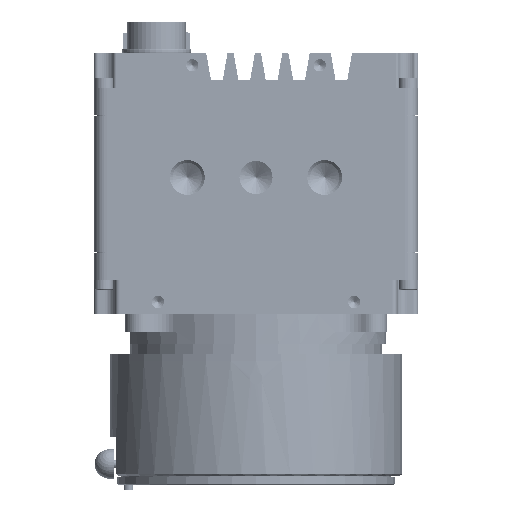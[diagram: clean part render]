
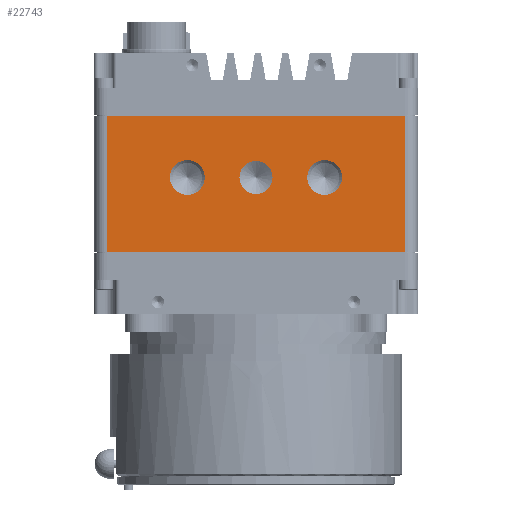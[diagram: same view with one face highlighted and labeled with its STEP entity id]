
A CAD part, front view. The second image highlights one B-rep face of the part: STEP entity #22743.
In plain terms, the highlighted planar face has unit normal (0, -1, 0).
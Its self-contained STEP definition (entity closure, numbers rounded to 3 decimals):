
#2048 = CARTESIAN_POINT ( 'NONE',  ( -20.091, -1.619, 6.427 ) ) ;
#9601 = FACE_BOUND ( 'NONE', #205629, .T. ) ;
#22743 = ADVANCED_FACE ( 'NONE', ( #354560, #9601, #389272, #665181 ), #464812, .F. ) ;
#23978 = EDGE_LOOP ( 'NONE', ( #506567, #706041 ) ) ;
#33009 = EDGE_CURVE ( 'NONE', #564601, #206211, #705892, .T. ) ;
#48267 = CARTESIAN_POINT ( 'NONE',  ( -50.571, -1.619, -12.064 ) ) ;
#53889 = DIRECTION ( 'NONE',  ( 0., 0., 1. ) ) ;
#59831 = VERTEX_POINT ( 'NONE', #147379 ) ;
#68454 = CIRCLE ( 'NONE', #432851, 3.55 ) ;
#77712 = VERTEX_POINT ( 'NONE', #326497 ) ;
#78898 = VERTEX_POINT ( 'NONE', #2048 ) ;
#78928 = DIRECTION ( 'NONE',  ( 0., -1., 0. ) ) ;
#80667 = EDGE_CURVE ( 'NONE', #77712, #672827, #395308, .T. ) ;
#83517 = CIRCLE ( 'NONE', #471086, 3.378 ) ;
#95263 = VERTEX_POINT ( 'NONE', #590287 ) ;
#100220 = ORIENTED_EDGE ( 'NONE', *, *, #80667, .T. ) ;
#100307 = CARTESIAN_POINT ( 'NONE',  ( -20.091, -1.619, 3.049 ) ) ;
#112717 = VERTEX_POINT ( 'NONE', #318296 ) ;
#126712 = ORIENTED_EDGE ( 'NONE', *, *, #133959, .F. ) ;
#131948 = DIRECTION ( 'NONE',  ( 0., 0., 1. ) ) ;
#133959 = EDGE_CURVE ( 'NONE', #59831, #95263, #68454, .T. ) ;
#137965 = LINE ( 'NONE', #314405, #456726 ) ;
#145008 = ORIENTED_EDGE ( 'NONE', *, *, #347358, .T. ) ;
#147379 = CARTESIAN_POINT ( 'NONE',  ( -34.091, -1.619, 6.599 ) ) ;
#149229 = AXIS2_PLACEMENT_3D ( 'NONE', #100307, #485872, #276173 ) ;
#152947 = ORIENTED_EDGE ( 'NONE', *, *, #378106, .F. ) ;
#159703 = EDGE_LOOP ( 'NONE', ( #126712, #152947 ) ) ;
#166983 = ORIENTED_EDGE ( 'NONE', *, *, #706982, .T. ) ;
#171636 = ORIENTED_EDGE ( 'NONE', *, *, #713608, .F. ) ;
#181613 = CARTESIAN_POINT ( 'NONE',  ( -34.091, -1.619, 3.049 ) ) ;
#183385 = AXIS2_PLACEMENT_3D ( 'NONE', #243222, #471858, #681763 ) ;
#205629 = EDGE_LOOP ( 'NONE', ( #615702, #171636 ) ) ;
#206211 = VERTEX_POINT ( 'NONE', #450336 ) ;
#229956 = DIRECTION ( 'NONE',  ( 0., -1., 0. ) ) ;
#243222 = CARTESIAN_POINT ( 'NONE',  ( 12.929, -1.619, 15.749 ) ) ;
#247087 = VERTEX_POINT ( 'NONE', #419951 ) ;
#276173 = DIRECTION ( 'NONE',  ( 0., 0., 1. ) ) ;
#280286 = AXIS2_PLACEMENT_3D ( 'NONE', #655942, #431862, #600397 ) ;
#314405 = CARTESIAN_POINT ( 'NONE',  ( 10.389, -1.619, 15.749 ) ) ;
#318296 = CARTESIAN_POINT ( 'NONE',  ( -20.091, -1.619, -0.329 ) ) ;
#323379 = VERTEX_POINT ( 'NONE', #48267 ) ;
#325693 = DIRECTION ( 'NONE',  ( -1., 0., 0. ) ) ;
#326497 = CARTESIAN_POINT ( 'NONE',  ( 10.389, -1.619, 15.622 ) ) ;
#330141 = CIRCLE ( 'NONE', #280286, 3.55 ) ;
#347358 = EDGE_CURVE ( 'NONE', #672827, #323379, #522170, .T. ) ;
#354560 = FACE_BOUND ( 'NONE', #159703, .T. ) ;
#358055 = CARTESIAN_POINT ( 'NONE',  ( -50.571, -1.619, 15.749 ) ) ;
#378106 = EDGE_CURVE ( 'NONE', #95263, #59831, #330141, .T. ) ;
#386979 = VECTOR ( 'NONE', #398817, 1000. ) ;
#389272 = FACE_BOUND ( 'NONE', #23978, .T. ) ;
#390811 = CARTESIAN_POINT ( 'NONE',  ( -50.571, -1.619, -12.064 ) ) ;
#395308 = LINE ( 'NONE', #401213, #386979 ) ;
#398545 = DIRECTION ( 'NONE',  ( 0., 0., 1. ) ) ;
#398817 = DIRECTION ( 'NONE',  ( -1., 0., 0. ) ) ;
#401213 = CARTESIAN_POINT ( 'NONE',  ( -50.571, -1.619, 15.622 ) ) ;
#401253 = CIRCLE ( 'NONE', #555121, 3.55 ) ;
#419951 = CARTESIAN_POINT ( 'NONE',  ( 10.389, -1.619, -12.064 ) ) ;
#426143 = EDGE_CURVE ( 'NONE', #247087, #323379, #444618, .T. ) ;
#431862 = DIRECTION ( 'NONE',  ( 0., -1., 0. ) ) ;
#432170 = EDGE_CURVE ( 'NONE', #78898, #112717, #648758, .T. ) ;
#432851 = AXIS2_PLACEMENT_3D ( 'NONE', #181613, #229956, #398545 ) ;
#444618 = LINE ( 'NONE', #390811, #564965 ) ;
#450336 = CARTESIAN_POINT ( 'NONE',  ( -6.091, -1.619, 6.599 ) ) ;
#456726 = VECTOR ( 'NONE', #480733, 1000. ) ;
#463279 = CARTESIAN_POINT ( 'NONE',  ( -6.091, -1.619, 3.049 ) ) ;
#464812 = PLANE ( 'NONE',  #183385 ) ;
#467971 = DIRECTION ( 'NONE',  ( 0., 0., 1. ) ) ;
#471086 = AXIS2_PLACEMENT_3D ( 'NONE', #497242, #663502, #53889 ) ;
#471858 = DIRECTION ( 'NONE',  ( 0., 1., 0. ) ) ;
#480733 = DIRECTION ( 'NONE',  ( 0., 0., 1. ) ) ;
#482292 = EDGE_LOOP ( 'NONE', ( #100220, #145008, #651752, #166983 ) ) ;
#485872 = DIRECTION ( 'NONE',  ( 0., -1., 0. ) ) ;
#497242 = CARTESIAN_POINT ( 'NONE',  ( -20.091, -1.619, 3.049 ) ) ;
#506567 = ORIENTED_EDGE ( 'NONE', *, *, #565927, .F. ) ;
#506754 = CARTESIAN_POINT ( 'NONE',  ( -50.571, -1.619, 15.622 ) ) ;
#522170 = LINE ( 'NONE', #358055, #651587 ) ;
#555121 = AXIS2_PLACEMENT_3D ( 'NONE', #628230, #78928, #131948 ) ;
#564601 = VERTEX_POINT ( 'NONE', #710834 ) ;
#564965 = VECTOR ( 'NONE', #325693, 1000. ) ;
#565927 = EDGE_CURVE ( 'NONE', #206211, #564601, #401253, .T. ) ;
#590287 = CARTESIAN_POINT ( 'NONE',  ( -34.091, -1.619, -0.501 ) ) ;
#600397 = DIRECTION ( 'NONE',  ( 0., 0., 1. ) ) ;
#615702 = ORIENTED_EDGE ( 'NONE', *, *, #432170, .F. ) ;
#627089 = DIRECTION ( 'NONE',  ( 0., -1., 0. ) ) ;
#628230 = CARTESIAN_POINT ( 'NONE',  ( -6.091, -1.619, 3.049 ) ) ;
#632781 = DIRECTION ( 'NONE',  ( 0., 0., -1. ) ) ;
#648758 = CIRCLE ( 'NONE', #149229, 3.378 ) ;
#651587 = VECTOR ( 'NONE', #632781, 1000. ) ;
#651752 = ORIENTED_EDGE ( 'NONE', *, *, #426143, .F. ) ;
#655942 = CARTESIAN_POINT ( 'NONE',  ( -34.091, -1.619, 3.049 ) ) ;
#663502 = DIRECTION ( 'NONE',  ( 0., -1., 0. ) ) ;
#665181 = FACE_OUTER_BOUND ( 'NONE', #482292, .T. ) ;
#672827 = VERTEX_POINT ( 'NONE', #506754 ) ;
#681763 = DIRECTION ( 'NONE',  ( 0., 0., -1. ) ) ;
#682730 = AXIS2_PLACEMENT_3D ( 'NONE', #463279, #627089, #467971 ) ;
#705892 = CIRCLE ( 'NONE', #682730, 3.55 ) ;
#706041 = ORIENTED_EDGE ( 'NONE', *, *, #33009, .F. ) ;
#706982 = EDGE_CURVE ( 'NONE', #247087, #77712, #137965, .T. ) ;
#710834 = CARTESIAN_POINT ( 'NONE',  ( -6.091, -1.619, -0.501 ) ) ;
#713608 = EDGE_CURVE ( 'NONE', #112717, #78898, #83517, .T. ) ;
